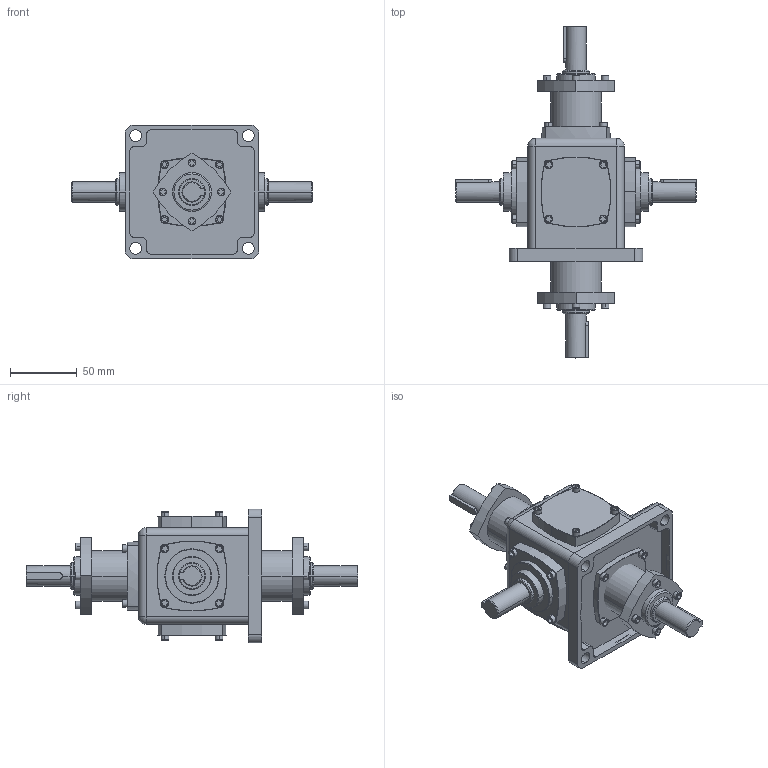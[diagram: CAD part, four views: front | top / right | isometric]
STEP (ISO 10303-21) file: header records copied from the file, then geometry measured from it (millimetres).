
FILE_DESCRIPTION (( 'STEP AP214' ), '1' );
FILE_NAME ('T2-1£º1-U-D-LR-B3.step', '2022-03-22T05:05:56', ( 'IT Division' ), ( 'IT' ), 'SwSTEP 2.0', 'SolidWorks 2016', '' );
FILE_SCHEMA (( 'AUTOMOTIVE_DESIGN' ));
Length unit declared in the file: millimetre
Products named in the file (1): T2-1：1-U-D-LR-B3
Bounding box: 180 x 248 x 100 mm (x, y, z)
Volume: 727498.3 mm3; surface area: 94264.8 mm2
Topology: 5 solids, 5 shells, 1561 faces, 4035 edges, 2641 vertices
Faces by surface type: plane 945, bspline 322, cylinder 175, torus 101, cone 14, sphere 4
Entity records: 63363 total; most frequent: CARTESIAN_POINT 26644, ORIENTED_EDGE 8062, DIRECTION 6405, EDGE_CURVE 4031, LINE 2777, VECTOR 2777, VERTEX_POINT 2641, AXIS2_PLACEMENT_3D 1814
